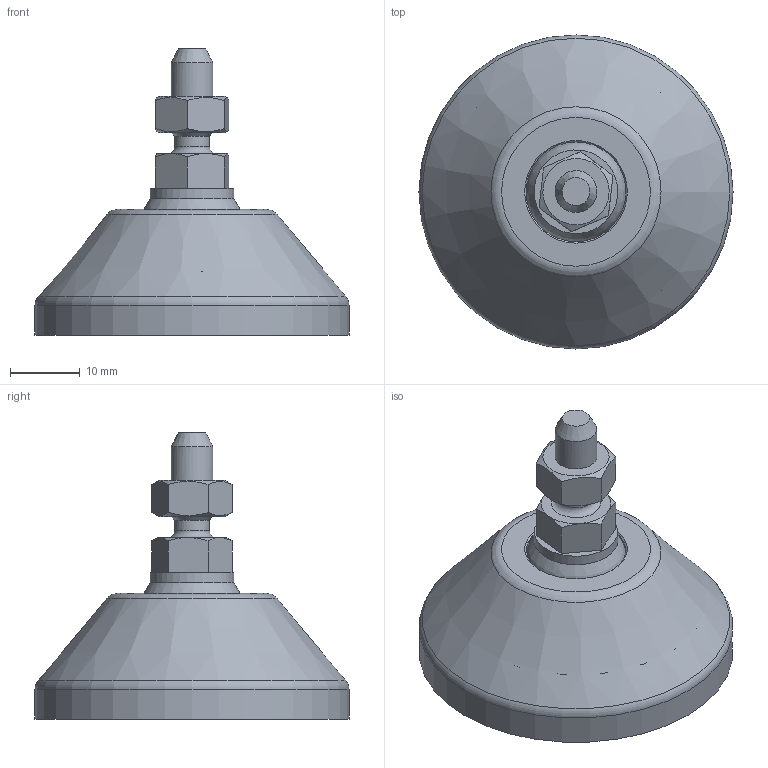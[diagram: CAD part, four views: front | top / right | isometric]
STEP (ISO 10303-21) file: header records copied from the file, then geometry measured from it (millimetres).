
FILE_DESCRIPTION(('STEP AP203'), '1');
FILE_NAME('栖闉罻', '', ('UNSPECIFIED'), ('UNSPECIFIED'), 'C3D Converter', 'C3D Toolkit', '');
FILE_SCHEMA(('CONFIG_CONTROL_DESIGN'));
Length unit declared in the file: millimetre
Products named in the file (4): A00015.1045; A00020.106015
Assembly tree (3 placements, depth 3):
  (unnamed)
    A00015.1045
    A00020.106015
      (unnamed)
Bounding box: 45 x 45 x 41 mm (x, y, z)
Volume: 14944.9 mm3; surface area: 8156.6 mm2
Topology: 3 solids, 3 shells, 134 faces, 371 edges, 247 vertices
Faces by surface type: plane 78, cylinder 26, cone 15, torus 13, sphere 2
Full cylindrical faces by diameter (mm): 4.917 x1, 5 x1, 6 x1, 12 x1, 14.3 x1, 15 x2, 15.5 x1, 37.3 x1, 45 x1
Entity records: 7504 total; most frequent: CARTESIAN_POINT 2883, DIRECTION 702, ORIENTED_EDGE 688, EDGE_CURVE 344, AXIS2_PLACEMENT_3D 278, VERTEX_POINT 246, EDGE_LOOP 166, FACE_BOUND 146
